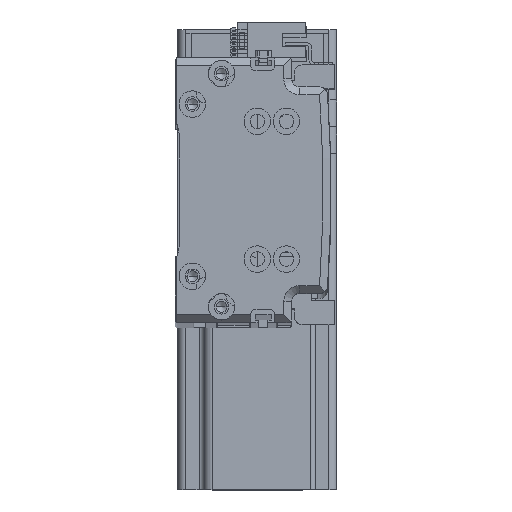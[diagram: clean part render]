
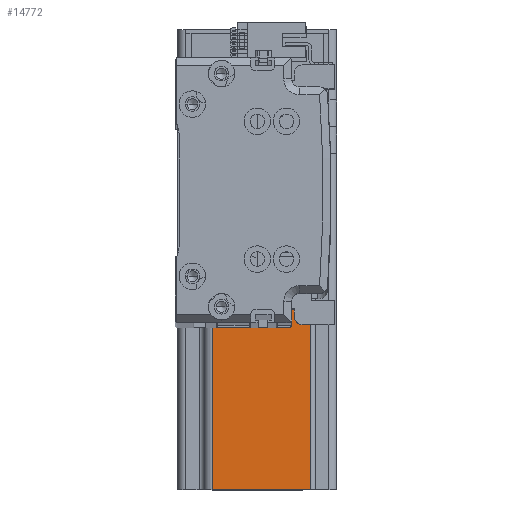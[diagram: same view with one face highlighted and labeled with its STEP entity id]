
A CAD part, top view. The second image highlights one B-rep face of the part: STEP entity #14772.
In plain terms, the highlighted planar face has unit normal (0, 0, 1) as drawn and (-1, 0, 0) by its records, which use the part's own axes.
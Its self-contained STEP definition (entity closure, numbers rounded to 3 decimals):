
#1945 = EDGE_CURVE ( 'NONE', #47497, #21559, #10509, .T. ) ;
#1989 = VERTEX_POINT ( 'NONE', #42565 ) ;
#2217 = FACE_OUTER_BOUND ( 'NONE', #6521, .T. ) ;
#2957 = EDGE_CURVE ( 'NONE', #22805, #18216, #19496, .T. ) ;
#3723 = CARTESIAN_POINT ( 'NONE',  ( -30., -27., 10. ) ) ;
#4873 = CARTESIAN_POINT ( 'NONE',  ( -30., -30., 137. ) ) ;
#4982 = CARTESIAN_POINT ( 'NONE',  ( -30., -17., 10. ) ) ;
#5162 = EDGE_CURVE ( 'NONE', #1989, #47497, #8149, .T. ) ;
#6109 = EDGE_CURVE ( 'NONE', #43679, #30008, #51518, .T. ) ;
#6521 = EDGE_LOOP ( 'NONE', ( #21223, #19977, #23807, #15882, #15757, #11296, #29890, #54268 ) ) ;
#6968 = VECTOR ( 'NONE', #39793, 1000. ) ;
#7694 = EDGE_CURVE ( 'NONE', #23283, #30008, #17011, .T. ) ;
#8149 = LINE ( 'NONE', #34210, #27929 ) ;
#8225 = AXIS2_PLACEMENT_3D ( 'NONE', #39458, #14201, #43645 ) ;
#9362 = EDGE_CURVE ( 'NONE', #18216, #1989, #44826, .T. ) ;
#10509 = LINE ( 'NONE', #12571, #41467 ) ;
#11296 = ORIENTED_EDGE ( 'NONE', *, *, #9362, .T. ) ;
#12517 = DIRECTION ( 'NONE',  ( 0., 0., 1. ) ) ;
#12571 = CARTESIAN_POINT ( 'NONE',  ( -30., -27., 137. ) ) ;
#14201 = DIRECTION ( 'NONE',  ( 1., 0., 0. ) ) ;
#14772 = ADVANCED_FACE ( 'NONE', ( #2217 ), #18088, .F. ) ;
#15757 = ORIENTED_EDGE ( 'NONE', *, *, #2957, .T. ) ;
#15882 = ORIENTED_EDGE ( 'NONE', *, *, #34716, .F. ) ;
#16483 = DIRECTION ( 'NONE',  ( 0., 0., 1. ) ) ;
#17011 = LINE ( 'NONE', #4873, #49279 ) ;
#17464 = DIRECTION ( 'NONE',  ( 0., -1., 0. ) ) ;
#17768 = CARTESIAN_POINT ( 'NONE',  ( -30., -17., 137. ) ) ;
#18088 = PLANE ( 'NONE',  #8225 ) ;
#18216 = VERTEX_POINT ( 'NONE', #53430 ) ;
#19124 = DIRECTION ( 'NONE',  ( 0., 0., -1. ) ) ;
#19195 = VECTOR ( 'NONE', #12517, 1000. ) ;
#19496 = LINE ( 'NONE', #35572, #6968 ) ;
#19977 = ORIENTED_EDGE ( 'NONE', *, *, #6109, .T. ) ;
#21223 = ORIENTED_EDGE ( 'NONE', *, *, #26582, .F. ) ;
#21559 = VERTEX_POINT ( 'NONE', #3723 ) ;
#22805 = VERTEX_POINT ( 'NONE', #26339 ) ;
#23283 = VERTEX_POINT ( 'NONE', #46852 ) ;
#23807 = ORIENTED_EDGE ( 'NONE', *, *, #7694, .F. ) ;
#26339 = CARTESIAN_POINT ( 'NONE',  ( -30., 20., 10. ) ) ;
#26582 = EDGE_CURVE ( 'NONE', #43679, #21559, #33441, .T. ) ;
#27929 = VECTOR ( 'NONE', #30137, 1000. ) ;
#29890 = ORIENTED_EDGE ( 'NONE', *, *, #5162, .T. ) ;
#30008 = VERTEX_POINT ( 'NONE', #17768 ) ;
#30137 = DIRECTION ( 'NONE',  ( 0., -1., 0. ) ) ;
#33441 = LINE ( 'NONE', #43822, #49252 ) ;
#33623 = VECTOR ( 'NONE', #19124, 1000. ) ;
#34210 = CARTESIAN_POINT ( 'NONE',  ( -30., -30., 0. ) ) ;
#34716 = EDGE_CURVE ( 'NONE', #22805, #23283, #42709, .T. ) ;
#35572 = CARTESIAN_POINT ( 'NONE',  ( -30., 30., 10. ) ) ;
#37730 = CARTESIAN_POINT ( 'NONE',  ( -30., -17., 137. ) ) ;
#39458 = CARTESIAN_POINT ( 'NONE',  ( -30., -30., 137. ) ) ;
#39614 = DIRECTION ( 'NONE',  ( 0., -1., 0. ) ) ;
#39793 = DIRECTION ( 'NONE',  ( 0., 1., 0. ) ) ;
#40128 = CARTESIAN_POINT ( 'NONE',  ( -30., 27., 137. ) ) ;
#41467 = VECTOR ( 'NONE', #50527, 1000. ) ;
#41683 = CARTESIAN_POINT ( 'NONE',  ( -30., 20., 10. ) ) ;
#42565 = CARTESIAN_POINT ( 'NONE',  ( -30., 27., 0. ) ) ;
#42709 = LINE ( 'NONE', #41683, #52583 ) ;
#43645 = DIRECTION ( 'NONE',  ( 0., 0., -1. ) ) ;
#43679 = VERTEX_POINT ( 'NONE', #4982 ) ;
#43822 = CARTESIAN_POINT ( 'NONE',  ( -30., -30., 10. ) ) ;
#44826 = LINE ( 'NONE', #40128, #33623 ) ;
#46852 = CARTESIAN_POINT ( 'NONE',  ( -30., 20., 137. ) ) ;
#47497 = VERTEX_POINT ( 'NONE', #49974 ) ;
#49252 = VECTOR ( 'NONE', #39614, 1000. ) ;
#49279 = VECTOR ( 'NONE', #17464, 1000. ) ;
#49974 = CARTESIAN_POINT ( 'NONE',  ( -30., -27., 0. ) ) ;
#50527 = DIRECTION ( 'NONE',  ( 0., 0., 1. ) ) ;
#51518 = LINE ( 'NONE', #37730, #19195 ) ;
#52583 = VECTOR ( 'NONE', #16483, 1000. ) ;
#53430 = CARTESIAN_POINT ( 'NONE',  ( -30., 27., 10. ) ) ;
#54268 = ORIENTED_EDGE ( 'NONE', *, *, #1945, .T. ) ;
